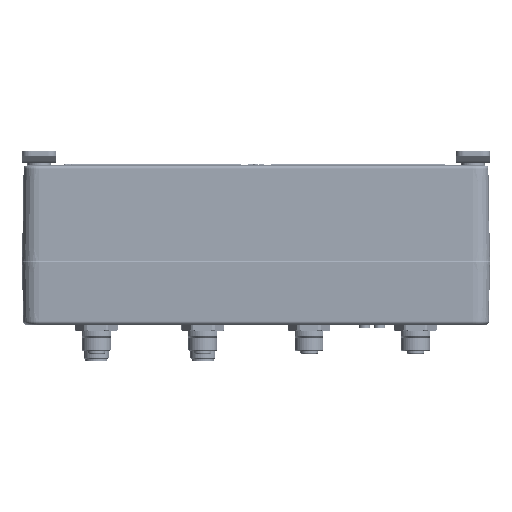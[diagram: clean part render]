
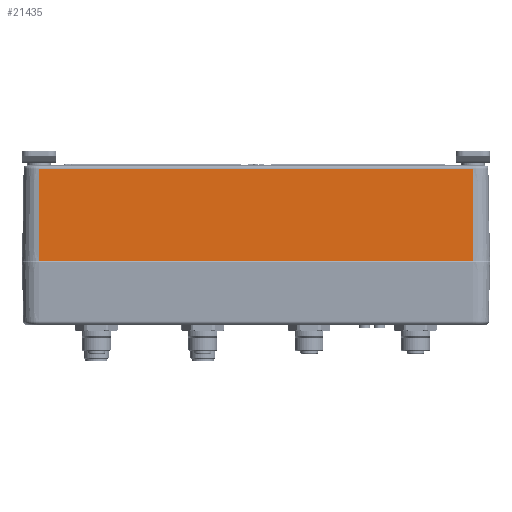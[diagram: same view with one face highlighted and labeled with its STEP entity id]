
A CAD part, front view. The second image highlights one B-rep face of the part: STEP entity #21435.
In plain terms, the highlighted planar face has unit normal (0, -1, 0.018).
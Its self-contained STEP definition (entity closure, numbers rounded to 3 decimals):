
#6469=DIRECTION('',(-1.,0.,0.));
#6470=VECTOR('',#6469,204.);
#6471=CARTESIAN_POINT('',(102.,-60.,0.));
#6472=LINE('',#6471,#6470);
#10259=DIRECTION('',(1.,0.,0.));
#10260=VECTOR('',#10259,204.);
#10261=CARTESIAN_POINT('',(-102.,-59.24,43.526));
#10262=LINE('',#10261,#10260);
#10342=DIRECTION('',(0.,-0.017,-1.));
#10343=VECTOR('',#10342,43.533);
#10344=CARTESIAN_POINT('',(102.,-59.24,43.526));
#10345=LINE('',#10344,#10343);
#10363=DIRECTION('',(0.,0.017,1.));
#10364=VECTOR('',#10363,43.533);
#10365=CARTESIAN_POINT('',(-102.,-60.,0.));
#10366=LINE('',#10365,#10364);
#11144=CARTESIAN_POINT('',(102.,-60.,0.));
#11145=CARTESIAN_POINT('',(-102.,-60.,0.));
#11146=VERTEX_POINT('',#11144);
#11147=VERTEX_POINT('',#11145);
#11148=CARTESIAN_POINT('',(102.,-59.24,43.526));
#11149=VERTEX_POINT('',#11148);
#11150=CARTESIAN_POINT('',(-102.,-59.24,43.526));
#11151=VERTEX_POINT('',#11150);
#21423=CARTESIAN_POINT('',(102.,-60.,0.));
#21424=DIRECTION('',(0.,-1.,0.017));
#21425=DIRECTION('',(0.,-0.017,-1.));
#21426=AXIS2_PLACEMENT_3D('',#21423,#21424,#21425);
#21427=PLANE('',#21426);
#21428=ORIENTED_EDGE('',*,*,#17858,.T.);
#21430=ORIENTED_EDGE('',*,*,#21429,.T.);
#21431=ORIENTED_EDGE('',*,*,#21337,.T.);
#21432=ORIENTED_EDGE('',*,*,#21416,.T.);
#21433=EDGE_LOOP('',(#21428,#21430,#21431,#21432));
#21434=FACE_OUTER_BOUND('',#21433,.F.);
#17858=EDGE_CURVE('',#11146,#11147,#6472,.T.);
#21337=EDGE_CURVE('',#11151,#11149,#10262,.T.);
#21416=EDGE_CURVE('',#11149,#11146,#10345,.T.);
#21429=EDGE_CURVE('',#11147,#11151,#10366,.T.);
#21435=ADVANCED_FACE('',(#21434),#21427,.T.);
